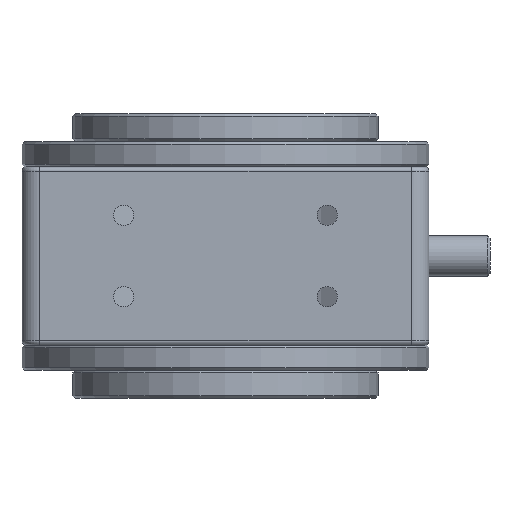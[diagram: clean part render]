
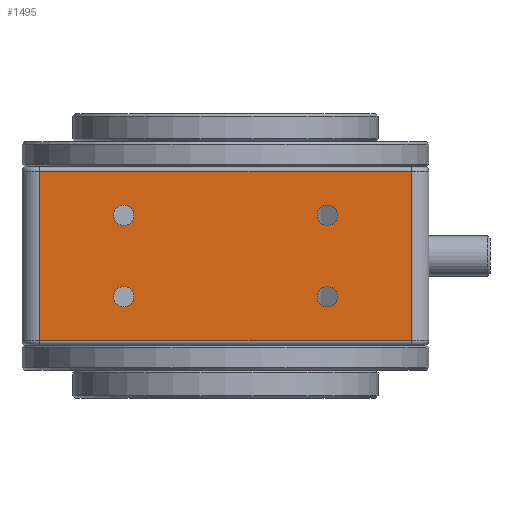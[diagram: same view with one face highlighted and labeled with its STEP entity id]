
A CAD part, front view. The second image highlights one B-rep face of the part: STEP entity #1495.
In plain terms, the highlighted planar face has unit normal (0, -1, 0).
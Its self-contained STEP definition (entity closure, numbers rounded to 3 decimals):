
#392=CARTESIAN_POINT('',(22.,-50.0,-8.));
#393=VERTEX_POINT('',#392);
#394=CARTESIAN_POINT('',(20.,-50.,-8.));
#395=DIRECTION('',(0.0,1.0,0.0));
#396=DIRECTION('',(-1.0,0.0,0.0));
#397=AXIS2_PLACEMENT_3D('',#394,#395,#396);
#398=CIRCLE('',#397,2.0);
#399=EDGE_CURVE('',#393,#393,#398,.T.);
#420=CARTESIAN_POINT('',(-18.,-50.,-8.));
#421=VERTEX_POINT('',#420);
#422=CARTESIAN_POINT('',(-20.,-50.,-8.));
#423=DIRECTION('',(0.0,1.0,0.0));
#424=DIRECTION('',(-1.0,0.0,0.0));
#425=AXIS2_PLACEMENT_3D('',#422,#423,#424);
#426=CIRCLE('',#425,2.0);
#427=EDGE_CURVE('',#421,#421,#426,.T.);
#448=CARTESIAN_POINT('',(22.,-50.0,8.));
#449=VERTEX_POINT('',#448);
#450=CARTESIAN_POINT('',(20.,-50.,8.));
#451=DIRECTION('',(0.0,1.0,0.0));
#452=DIRECTION('',(-1.0,0.0,0.0));
#453=AXIS2_PLACEMENT_3D('',#450,#451,#452);
#454=CIRCLE('',#453,2.0);
#455=EDGE_CURVE('',#449,#449,#454,.T.);
#476=CARTESIAN_POINT('',(-18.,-50.,8.));
#477=VERTEX_POINT('',#476);
#478=CARTESIAN_POINT('',(-20.,-50.,8.));
#479=DIRECTION('',(0.0,1.0,0.0));
#480=DIRECTION('',(-1.0,0.0,0.0));
#481=AXIS2_PLACEMENT_3D('',#478,#479,#480);
#482=CIRCLE('',#481,2.0);
#483=EDGE_CURVE('',#477,#477,#482,.T.);
#1302=CARTESIAN_POINT('',(36.5,-50.,-16.7));
#1303=VERTEX_POINT('',#1302);
#1336=CARTESIAN_POINT('',(-36.5,-50.,-16.7));
#1337=VERTEX_POINT('',#1336);
#1354=CARTESIAN_POINT('',(36.5,-50.,-16.7));
#1355=DIRECTION('',(-1.0,0.0,0.0));
#1356=VECTOR('',#1355,73.);
#1357=LINE('',#1354,#1356);
#1358=EDGE_CURVE('',#1303,#1337,#1357,.T.);
#1453=CARTESIAN_POINT('',(-40.0,-50.,0.0));
#1454=DIRECTION('',(0.0,-1.0,0.0));
#1455=DIRECTION('',(1.0,0.0,0.0));
#1456=AXIS2_PLACEMENT_3D('',#1453,#1454,#1455);
#1457=PLANE('',#1456);
#1458=ORIENTED_EDGE('',*,*,#1358,.F.);
#1459=CARTESIAN_POINT('',(36.5,-50.,16.7));
#1460=VERTEX_POINT('',#1459);
#1461=CARTESIAN_POINT('',(36.5,-50.,16.7));
#1462=DIRECTION('',(0.0,0.0,-1.0));
#1463=VECTOR('',#1462,33.4);
#1464=LINE('',#1461,#1463);
#1465=EDGE_CURVE('',#1460,#1303,#1464,.T.);
#1466=ORIENTED_EDGE('',*,*,#1465,.F.);
#1467=CARTESIAN_POINT('',(-36.5,-50.,16.7));
#1468=VERTEX_POINT('',#1467);
#1469=CARTESIAN_POINT('',(-36.5,-50.,16.7));
#1470=DIRECTION('',(1.0,0.0,0.0));
#1471=VECTOR('',#1470,73.);
#1472=LINE('',#1469,#1471);
#1473=EDGE_CURVE('',#1468,#1460,#1472,.T.);
#1474=ORIENTED_EDGE('',*,*,#1473,.F.);
#1475=CARTESIAN_POINT('',(-36.5,-50.,-16.7));
#1476=DIRECTION('',(0.0,0.0,1.0));
#1477=VECTOR('',#1476,33.4);
#1478=LINE('',#1475,#1477);
#1479=EDGE_CURVE('',#1337,#1468,#1478,.T.);
#1480=ORIENTED_EDGE('',*,*,#1479,.F.);
#1481=EDGE_LOOP('',(#1458,#1466,#1474,#1480));
#1482=FACE_OUTER_BOUND('',#1481,.T.);
#1483=ORIENTED_EDGE('',*,*,#399,.T.);
#1484=EDGE_LOOP('',(#1483));
#1485=FACE_BOUND('',#1484,.T.);
#1486=ORIENTED_EDGE('',*,*,#427,.T.);
#1487=EDGE_LOOP('',(#1486));
#1488=FACE_BOUND('',#1487,.T.);
#1489=ORIENTED_EDGE('',*,*,#455,.T.);
#1490=EDGE_LOOP('',(#1489));
#1491=FACE_BOUND('',#1490,.T.);
#1492=ORIENTED_EDGE('',*,*,#483,.T.);
#1493=EDGE_LOOP('',(#1492));
#1494=FACE_BOUND('',#1493,.T.);
#1495=ADVANCED_FACE('',(#1482,#1485,#1488,#1491,#1494),#1457,.T.);
